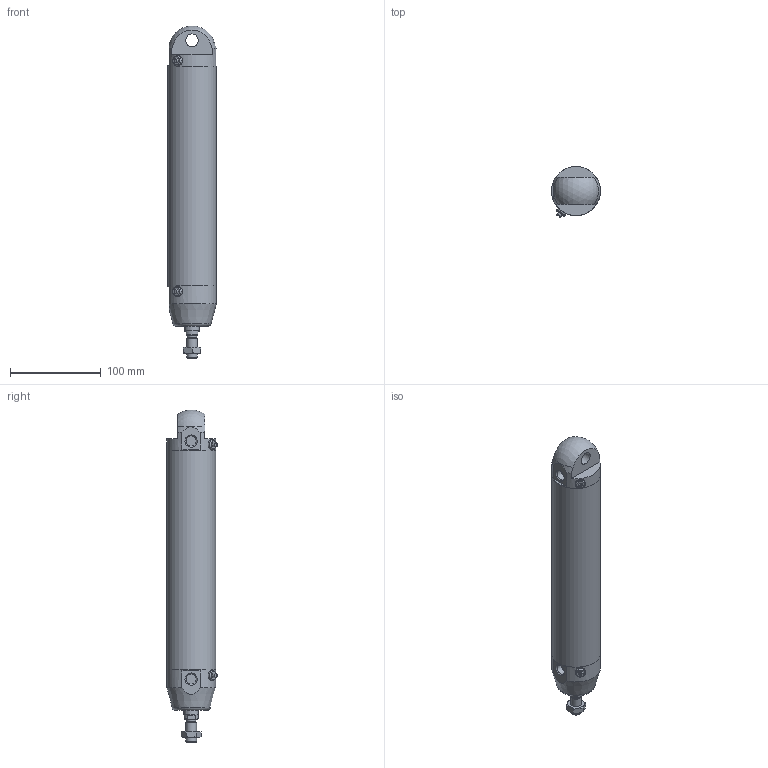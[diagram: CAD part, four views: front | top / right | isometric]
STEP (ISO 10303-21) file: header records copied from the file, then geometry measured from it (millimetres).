
FILE_DESCRIPTION(/* description */ (''),/* implementation_level */ '2;1');
FILE_NAME(/* name */ 'I:\Area Tecnica\Documenti\A-Manieri\_Inventor\12X\12X#A_###_####_#_#\12XBA_050_0200_#_#.stp',/* time_stamp */ '2015-04-24T09:18:57+02:00',/* author */ ('maniean1'),/* organization */ ('Pneumax S.p.A.'),/* preprocessor_version */ 'ST-DEVELOPER v15.2',/* originating_system */ 'Autodesk Inventor 2014',/* authorisation */ '');
FILE_SCHEMA (('AUTOMOTIVE_DESIGN { 1 0 10303 214 3 1 1 }'));
Length unit declared in the file: millimetre
Products named in the file (6): C1250_619-0200; 12X50_614; 12X50_607; S12X50_0200; 12X_50_11; 12XBA_050_0200_#_#
Bounding box: 54 x 55.88 x 366.83 mm (x, y, z)
Volume: 360415.8 mm3; surface area: 129396.8 mm2
Topology: 5 solids, 5 shells, 77 faces, 168 edges, 109 vertices
Faces by surface type: plane 43, cylinder 18, cone 12, torus 3, sphere 1
Full cylindrical faces by diameter (mm): 5 x2, 10.2 x1, 11 x2, 11.4 x2, 12 x2, 14 x2, 15.6 x1, 16 x1, 50 x2, 54 x3
Entity records: 2072 total; most frequent: CARTESIAN_POINT 428, DIRECTION 346, ORIENTED_EDGE 260, AXIS2_PLACEMENT_3D 152, EDGE_CURVE 130, EDGE_LOOP 122, VERTEX_POINT 100, ADVANCED_FACE 77
